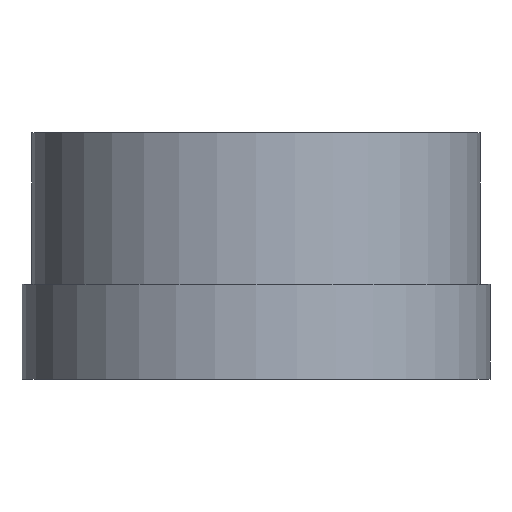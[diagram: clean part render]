
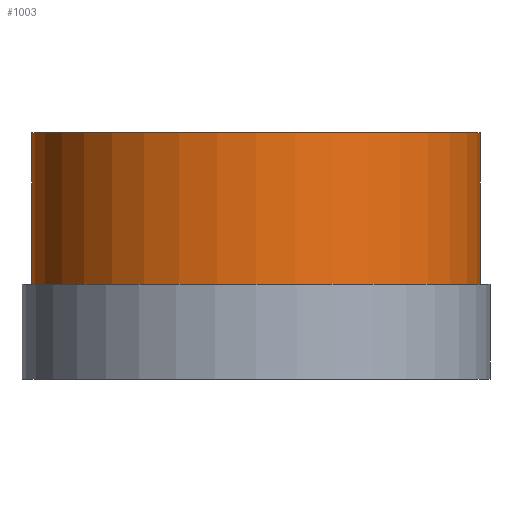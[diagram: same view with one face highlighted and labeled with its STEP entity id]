
A CAD part, left-side view. The second image highlights one B-rep face of the part: STEP entity #1003.
In plain terms, the highlighted cylindrical face has radius 18.2 mm (diameter 36.4 mm), a full revolution.
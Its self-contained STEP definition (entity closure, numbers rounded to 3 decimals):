
#45 = PLANE('',#46);
#46 = AXIS2_PLACEMENT_3D('',#47,#48,#49);
#47 = CARTESIAN_POINT('',(-6.,0.,7.7));
#48 = DIRECTION('',(0.,0.,1.));
#49 = DIRECTION('',(1.,0.,-0.));
#633 = PLANE('',#634);
#634 = AXIS2_PLACEMENT_3D('',#635,#636,#637);
#635 = CARTESIAN_POINT('',(0.,0.,20.));
#636 = DIRECTION('',(0.,0.,1.));
#637 = DIRECTION('',(1.,0.,-0.));
#972 = EDGE_CURVE('',#973,#973,#975,.T.);
#973 = VERTEX_POINT('',#974);
#974 = CARTESIAN_POINT('',(18.2,0.,20.));
#975 = SURFACE_CURVE('',#976,(#981,#988),.PCURVE_S1.);
#976 = CIRCLE('',#977,18.2);
#977 = AXIS2_PLACEMENT_3D('',#978,#979,#980);
#978 = CARTESIAN_POINT('',(0.,0.,20.));
#979 = DIRECTION('',(0.,0.,1.));
#980 = DIRECTION('',(1.,0.,-0.));
#981 = PCURVE('',#633,#982);
#982 = DEFINITIONAL_REPRESENTATION('',(#983),#987);
#983 = CIRCLE('',#984,18.2);
#984 = AXIS2_PLACEMENT_2D('',#985,#986);
#985 = CARTESIAN_POINT('',(0.,0.));
#986 = DIRECTION('',(1.,0.));
#987 = ( GEOMETRIC_REPRESENTATION_CONTEXT(2) 
PARAMETRIC_REPRESENTATION_CONTEXT() REPRESENTATION_CONTEXT('2D SPACE',''
  ) );
#988 = PCURVE('',#989,#994);
#989 = CYLINDRICAL_SURFACE('',#990,18.2);
#990 = AXIS2_PLACEMENT_3D('',#991,#992,#993);
#991 = CARTESIAN_POINT('',(0.,0.,7.2));
#992 = DIRECTION('',(0.,0.,1.));
#993 = DIRECTION('',(1.,0.,-0.));
#994 = DEFINITIONAL_REPRESENTATION('',(#995),#999);
#995 = LINE('',#996,#997);
#996 = CARTESIAN_POINT('',(0.,12.8));
#997 = VECTOR('',#998,1.);
#998 = DIRECTION('',(1.,0.));
#999 = ( GEOMETRIC_REPRESENTATION_CONTEXT(2) 
PARAMETRIC_REPRESENTATION_CONTEXT() REPRESENTATION_CONTEXT('2D SPACE',''
  ) );
#1003 = ADVANCED_FACE('',(#1004),#989,.T.);
#1004 = FACE_BOUND('',#1005,.T.);
#1005 = EDGE_LOOP('',(#1006,#1029,#1030,#1031));
#1006 = ORIENTED_EDGE('',*,*,#1007,.T.);
#1007 = EDGE_CURVE('',#1008,#973,#1010,.T.);
#1008 = VERTEX_POINT('',#1009);
#1009 = CARTESIAN_POINT('',(18.2,0.,7.7));
#1010 = SEAM_CURVE('',#1011,(#1015,#1022),.PCURVE_S1.);
#1011 = LINE('',#1012,#1013);
#1012 = CARTESIAN_POINT('',(18.2,0.,7.2));
#1013 = VECTOR('',#1014,1.);
#1014 = DIRECTION('',(0.,0.,1.));
#1015 = PCURVE('',#989,#1016);
#1016 = DEFINITIONAL_REPRESENTATION('',(#1017),#1021);
#1017 = LINE('',#1018,#1019);
#1018 = CARTESIAN_POINT('',(6.283,-0.));
#1019 = VECTOR('',#1020,1.);
#1020 = DIRECTION('',(0.,1.));
#1021 = ( GEOMETRIC_REPRESENTATION_CONTEXT(2) 
PARAMETRIC_REPRESENTATION_CONTEXT() REPRESENTATION_CONTEXT('2D SPACE',''
  ) );
#1022 = PCURVE('',#989,#1023);
#1023 = DEFINITIONAL_REPRESENTATION('',(#1024),#1028);
#1024 = LINE('',#1025,#1026);
#1025 = CARTESIAN_POINT('',(0.,-0.));
#1026 = VECTOR('',#1027,1.);
#1027 = DIRECTION('',(0.,1.));
#1028 = ( GEOMETRIC_REPRESENTATION_CONTEXT(2) 
PARAMETRIC_REPRESENTATION_CONTEXT() REPRESENTATION_CONTEXT('2D SPACE',''
  ) );
#1029 = ORIENTED_EDGE('',*,*,#972,.F.);
#1030 = ORIENTED_EDGE('',*,*,#1007,.F.);
#1031 = ORIENTED_EDGE('',*,*,#1032,.F.);
#1032 = EDGE_CURVE('',#1008,#1008,#1033,.T.);
#1033 = SURFACE_CURVE('',#1034,(#1039,#1046),.PCURVE_S1.);
#1034 = CIRCLE('',#1035,18.2);
#1035 = AXIS2_PLACEMENT_3D('',#1036,#1037,#1038);
#1036 = CARTESIAN_POINT('',(0.,0.,7.7)
  );
#1037 = DIRECTION('',(0.,0.,-1.));
#1038 = DIRECTION('',(1.,0.,0.));
#1039 = PCURVE('',#989,#1040);
#1040 = DEFINITIONAL_REPRESENTATION('',(#1041),#1045);
#1041 = LINE('',#1042,#1043);
#1042 = CARTESIAN_POINT('',(6.283,0.5));
#1043 = VECTOR('',#1044,1.);
#1044 = DIRECTION('',(-1.,-0.));
#1045 = ( GEOMETRIC_REPRESENTATION_CONTEXT(2) 
PARAMETRIC_REPRESENTATION_CONTEXT() REPRESENTATION_CONTEXT('2D SPACE',''
  ) );
#1046 = PCURVE('',#45,#1047);
#1047 = DEFINITIONAL_REPRESENTATION('',(#1048),#1056);
#1048 = ( BOUNDED_CURVE() B_SPLINE_CURVE(2,(#1049,#1050,#1051,#1052,
#1053,#1054,#1055),.UNSPECIFIED.,.T.,.F.) B_SPLINE_CURVE_WITH_KNOTS((1,2
    ,2,2,2,1),(-2.094,0.,2.094,4.189,
6.283,8.378),.UNSPECIFIED.) CURVE() 
GEOMETRIC_REPRESENTATION_ITEM() RATIONAL_B_SPLINE_CURVE((1.,0.5,1.,0.5,
1.,0.5,1.)) REPRESENTATION_ITEM('') );
#1049 = CARTESIAN_POINT('',(24.2,0.));
#1050 = CARTESIAN_POINT('',(24.2,-31.523));
#1051 = CARTESIAN_POINT('',(-3.1,-15.762));
#1052 = CARTESIAN_POINT('',(-30.4,0.));
#1053 = CARTESIAN_POINT('',(-3.1,15.762));
#1054 = CARTESIAN_POINT('',(24.2,31.523));
#1055 = CARTESIAN_POINT('',(24.2,0.));
#1056 = ( GEOMETRIC_REPRESENTATION_CONTEXT(2) 
PARAMETRIC_REPRESENTATION_CONTEXT() REPRESENTATION_CONTEXT('2D SPACE',''
  ) );
